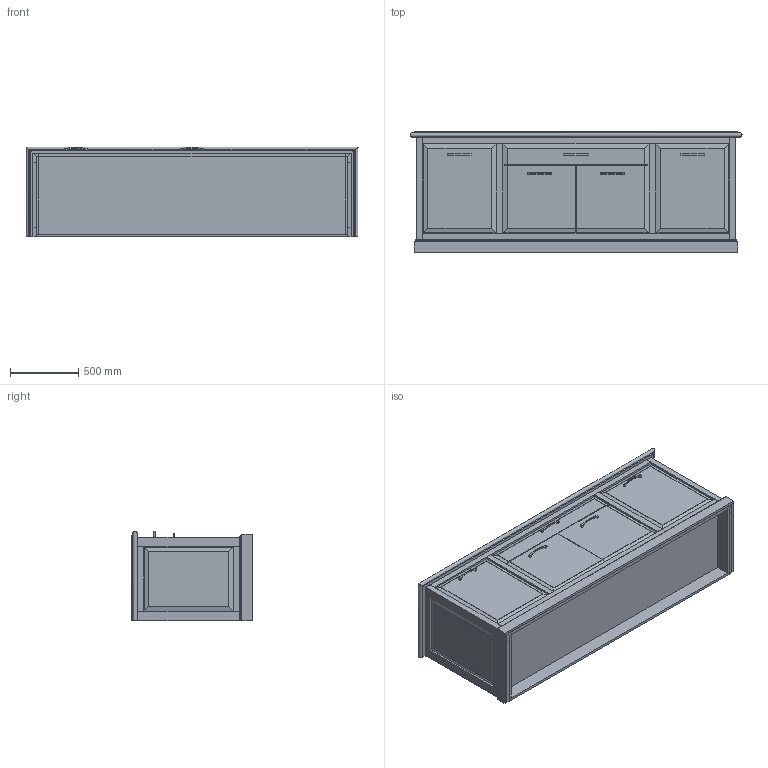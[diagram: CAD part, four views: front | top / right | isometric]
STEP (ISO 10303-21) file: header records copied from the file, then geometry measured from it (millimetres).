
FILE_DESCRIPTION(/* description */ ('','CAx-IF Rec.Pracs.---Representation and Presentation of Product Manufacturing Information (PMI)---4.0---2014-10-13'),/* implementation_level */ '2;1');
FILE_NAME(/* name */ 'CREDENZA STORAGE_CAMBRIDGE 2.stp',/* time_stamp */ '2024-12-07T17:43:23-05:00',/* author */ ('mbowman'),/* organization */ (''),/* preprocessor_version */ 'ST-DEVELOPER v19.2',/* originating_system */ 'Autodesk Inventor 2023',/* authorisation */ '');
FILE_SCHEMA (('AP242_MANAGED_MODEL_BASED_3D_ENGINEERING_MIM_LF { 1 0 10303 442 1 1 4 }'));
Length unit declared in the file: inch
Products named in the file (3): CAMBRIDGE^CREDENZA 2_26x96 4 DOOR 1 DRAWER-SOLID ASSEMBLY; CAMBRIDGE^CREDENZA 1_26x96 4 DOOR 1 DRAWER-PARTS SOLID; ART DECCO^GLAM-HAFELE 110_34_286
Assembly tree (6 placements, depth 2):
  CAMBRIDGE^CREDENZA 2_26x96 4 DOOR 1 DRAWER-SOLID ASSEMBLY
    CAMBRIDGE^CREDENZA 1_26x96 4 DOOR 1 DRAWER-PARTS SOLID
    ART DECCO^GLAM-HAFELE 110_34_286  x5
Bounding box: 2438.39 x 889 x 660.39 mm (x, y, z)
Volume: 226626779.5 mm3; surface area: 20353392.9 mm2
Topology: 37 solids, 37 shells, 359 faces, 789 edges, 506 vertices
Faces by surface type: plane 274, cylinder 45, torus 40
Entity records: 9480 total; most frequent: CARTESIAN_POINT 2106, DIRECTION 1285, ORIENTED_EDGE 1226, EDGE_CURVE 613, LINE 551, VECTOR 551, STYLED_ITEM 464, VERTEX_POINT 394
